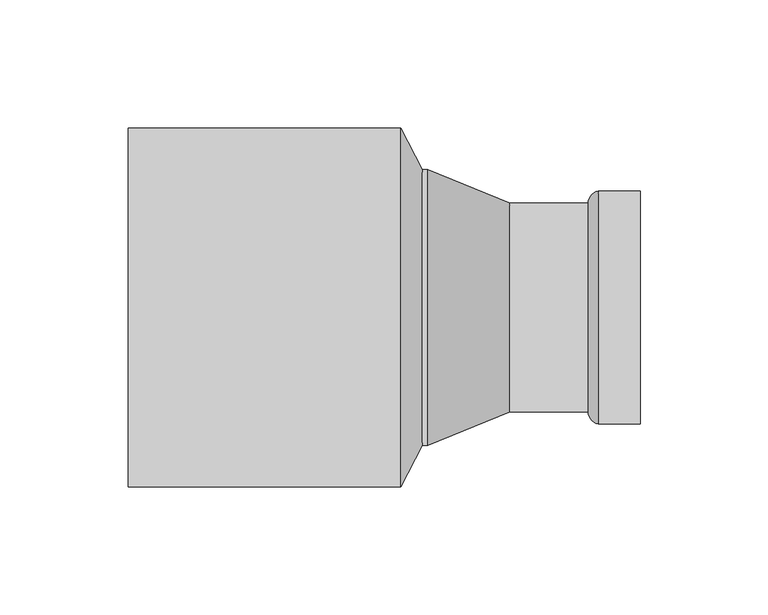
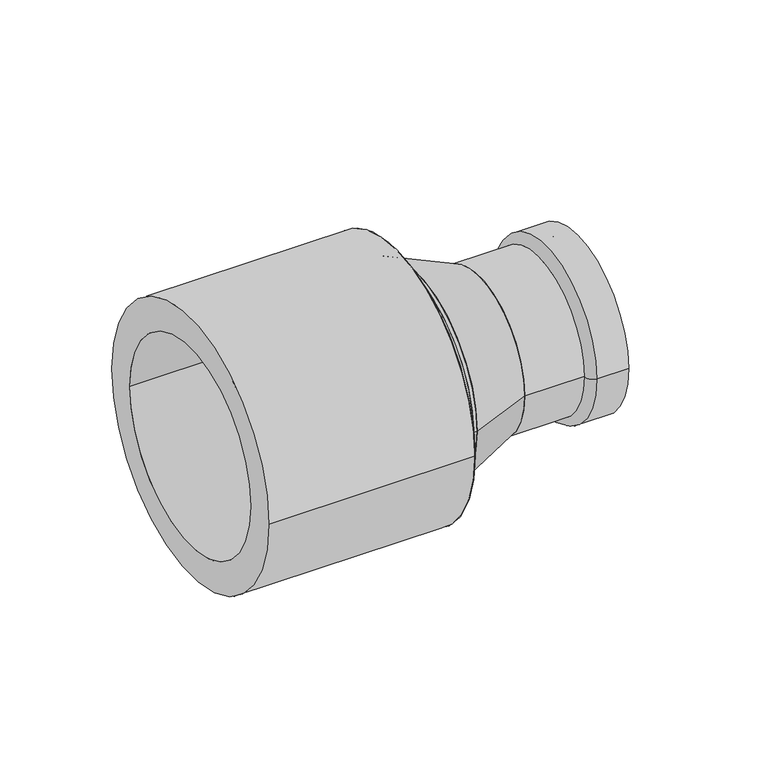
"""IFC4 building model written with IfcOpenShell, lengths in millimetres: pipe fitting geometry, VALTEC_VTi.905.I_Вставка переходная_Нержавеющая сталь : VTi.905.I."""

import ifcopenshell
import ifcopenshell.guid

model = None  # the IFC model being written
_history = None  # IfcOwnerHistory: only IFC2X3 demands one
_inside = {}  # id of a spatial element -> (the spatial element, [elements in it])
_under = {}  # id of a project, library or spatial element -> (it, [spatial elements below it])
_declared = {}  # id of a project -> (the project, [libraries it declares])
_typed = {}  # id of a type object -> (the type object, [elements of that type])
_made_of = {}  # id of a material, layer set ... -> (it, [elements and type objects made of it])


def new_model(schema):
    """Start an empty IFC model of exactly this schema.

    Asked for "IFC4X3", IfcOpenShell would pick the latest addendum, in which some entities
    have other attributes; the version numbers below select the first issue.
    IFC2X3 requires an IfcOwnerHistory on every rooted entity: one is made here for all.
    """
    global model, _history
    if schema == "IFC4X3":
        model = ifcopenshell.file(schema_version=(4, 3, 0, 0))
    else:
        model = ifcopenshell.file(schema=schema)
    _inside.clear()
    _under.clear()
    _declared.clear()
    _typed.clear()
    _made_of.clear()
    _history = None
    if model.schema == "IFC2X3":
        org = make("IfcOrganization", Name="unknown")
        user = make(
            "IfcPersonAndOrganization",
            ThePerson=make("IfcPerson", FamilyName="unknown"),
            TheOrganization=org,
        )
        app = make(
            "IfcApplication",
            ApplicationDeveloper=org,
            Version="unknown",
            ApplicationFullName="unknown",
            ApplicationIdentifier="unknown",
        )
        _history = make(
            "IfcOwnerHistory",
            OwningUser=user,
            OwningApplication=app,
            ChangeAction="ADDED",
            CreationDate=0,
        )
    return model


def make(cls, **values):
    """One entity of the class cls with the attributes given. An attribute that is None is left unset."""
    return model.create_entity(
        cls, **{name: value for name, value in values.items() if value is not None}
    )


def rooted(cls, **values):
    """An entity with a GlobalId (a new one), such as an element, a storey or a relation."""
    return make(cls, GlobalId=ifcopenshell.guid.new(), OwnerHistory=_history, **values)


def si_unit(unit_type, name, prefix=None):
    """IfcSIUnit, for example si_unit("LENGTHUNIT", "METRE", prefix="MILLI")."""
    return make("IfcSIUnit", UnitType=unit_type, Prefix=prefix, Name=name)


def assignment(units):
    """IfcUnitAssignment: the units of a project."""
    return None if units is None else make("IfcUnitAssignment", Units=units)


def point(xyz):
    """IfcCartesianPoint."""
    return None if xyz is None else make("IfcCartesianPoint", Coordinates=xyz)


def direction(xyz):
    """IfcDirection."""
    return None if xyz is None else make("IfcDirection", DirectionRatios=xyz)


def frame(location, z_axis=None, x_axis=None):
    """IfcAxis2Placement3D, a coordinate frame: its origin and axes. An axis left out is left unset."""
    return make(
        "IfcAxis2Placement3D",
        Location=point(location),
        Axis=direction(z_axis),
        RefDirection=direction(x_axis),
    )


def frame_2d(location, x_axis=None):
    """IfcAxis2Placement2D, a coordinate frame in the plane: its origin and x axis."""
    return make(
        "IfcAxis2Placement2D", Location=point(location), RefDirection=direction(x_axis)
    )


def origin():
    """The frame at (0, 0, 0) with its axes left unset."""
    return frame((0.0, 0.0, 0.0))


def origin_2d():
    """The frame at (0, 0) in the plane with its x axis left unset."""
    return frame_2d((0.0, 0.0))


def place(relative_to, where):
    """IfcLocalPlacement: puts the frame where relative to a parent placement (None: the world)."""
    return make(
        "IfcLocalPlacement", PlacementRelTo=relative_to, RelativePlacement=where
    )


def context(
    kind, dimensions, precision=None, world=None, true_north=None, identifier=None
):
    """IfcGeometricRepresentationContext, for example the 3D "Model" context."""
    return make(
        "IfcGeometricRepresentationContext",
        ContextIdentifier=identifier,
        ContextType=kind,
        CoordinateSpaceDimension=dimensions,
        Precision=precision,
        WorldCoordinateSystem=world,
        TrueNorth=true_north,
    )


def project(units=None, contexts=None):
    """IfcProject with its units and contexts."""
    return rooted(
        "IfcProject",
        Name="project",
        RepresentationContexts=contexts,
        UnitsInContext=assignment(units),
    )


def spatial(cls, under=None, at=None, **own):
    """A site, building, storey or space (cls), placed at a placement, below another one or the project."""
    s = rooted(cls, ObjectPlacement=at, **own)
    if under is not None:
        _under.setdefault(under.id(), (under, []))[1].append(s)
    return s


def polyline(points):
    """IfcPolyline through the points."""
    return make("IfcPolyline", Points=[point(p) for p in points])


def circle_curve(where, radius):
    """IfcCircle in the frame where."""
    return make("IfcCircle", Position=where, Radius=radius)


def ellipse_curve(where, semi_axis1, semi_axis2):
    """IfcEllipse in the frame where."""
    return make(
        "IfcEllipse", Position=where, SemiAxis1=semi_axis1, SemiAxis2=semi_axis2
    )


def trimmed(basis, trim1, trim2, sense, master):
    """IfcTrimmedCurve: the piece of a basis curve between two trims."""
    return make(
        "IfcTrimmedCurve",
        BasisCurve=basis,
        Trim1=trim1,
        Trim2=trim2,
        SenseAgreement=sense,
        MasterRepresentation=master,
    )


def segment(curve, same_sense, transition):
    """IfcCompositeCurveSegment."""
    return make(
        "IfcCompositeCurveSegment",
        Transition=transition,
        SameSense=same_sense,
        ParentCurve=curve,
    )


def composite_curve(segments, self_intersect=None):
    """IfcCompositeCurve: segments joined end to end."""
    return make("IfcCompositeCurve", Segments=segments, SelfIntersect=self_intersect)


def outline(outer, holes=None, kind="AREA"):
    """IfcArbitraryClosedProfileDef: a profile drawn as a closed curve; with holes, ...WithVoids."""
    if holes is None:
        return make("IfcArbitraryClosedProfileDef", ProfileType=kind, OuterCurve=outer)
    return make(
        "IfcArbitraryProfileDefWithVoids",
        ProfileType=kind,
        OuterCurve=outer,
        InnerCurves=holes,
    )


def extrude(swept, where, along, depth):
    """IfcExtrudedAreaSolid: the profile swept, set in the frame where, extruded along a direction by depth."""
    return make(
        "IfcExtrudedAreaSolid",
        SweptArea=swept,
        Position=where,
        ExtrudedDirection=direction(along),
        Depth=depth,
    )


def shape(context_of_items, identifier, shape_type, items):
    """IfcShapeRepresentation: the items that make up one representation, for example the "Body"."""
    return make(
        "IfcShapeRepresentation",
        ContextOfItems=context_of_items,
        RepresentationIdentifier=identifier,
        RepresentationType=shape_type,
        Items=items,
    )


def source(mapping_origin, context_of_items, identifier, shape_type, items):
    """IfcRepresentationMap: a shape defined once, which mapped items show again and again."""
    return make(
        "IfcRepresentationMap",
        MappingOrigin=mapping_origin,
        MappedRepresentation=shape(context_of_items, identifier, shape_type, items),
    )


def transform(
    local_origin,
    x_axis=None,
    y_axis=None,
    z_axis=None,
    scale=None,
    scale2=None,
    scale3=None,
    uniform=True,
):
    """IfcCartesianTransformationOperator3D, or its non-uniform kind. x_axis, y_axis, z_axis: its Axis1, 2, 3."""
    if uniform:
        return make(
            "IfcCartesianTransformationOperator3D",
            Axis1=direction(x_axis),
            Axis2=direction(y_axis),
            LocalOrigin=point(local_origin),
            Scale=scale,
            Axis3=direction(z_axis),
        )
    return make(
        "IfcCartesianTransformationOperator3DnonUniform",
        Axis1=direction(x_axis),
        Axis2=direction(y_axis),
        LocalOrigin=point(local_origin),
        Scale=scale,
        Axis3=direction(z_axis),
        Scale2=scale2,
        Scale3=scale3,
    )


def mapped(mapping_source, mapping_target):
    """IfcMappedItem: shows the shape of a source again, moved by a transform."""
    return make(
        "IfcMappedItem", MappingSource=mapping_source, MappingTarget=mapping_target
    )


def made_of(thing, what):
    """Note that an element or type object is made of a material, layer set ...; save() writes the relation."""
    if what is not None:
        _made_of.setdefault(what.id(), (what, []))[1].append(thing)
    return thing


def element(
    cls,
    number,
    at=None,
    inside=None,
    cuts=None,
    type_object=None,
    material=None,
    context=None,
    identifier="Body",
    shape_type=None,
    held_by="IfcProductDefinitionShape",
    body=None,
    shapes=None,
    **own,
):
    """One element of the class cls, such as IfcWall. Its Tag is "e" and its number.

    at: its placement. inside: the storey or other place that contains it. cuts: it is an
    opening in that element (IfcRelVoidsElement). A single representation is given by context,
    identifier, shape_type and body (its items); several are given by shapes. held_by: the class
    of the entity that holds the representations. save() writes the other relations.
    """
    e = rooted(cls, Tag="e%d" % number, ObjectPlacement=at, **own)
    if body is not None:
        shapes = [shape(context, identifier, shape_type, body)]
    if shapes is not None:
        e.Representation = make(held_by, Representations=shapes)
    if inside is not None:
        _inside.setdefault(inside.id(), (inside, []))[1].append(e)
    if cuts is not None:
        rooted(
            "IfcRelVoidsElement", RelatingBuildingElement=cuts, RelatedOpeningElement=e
        )
    if type_object is not None:
        _typed.setdefault(type_object.id(), (type_object, []))[1].append(e)
    return made_of(e, material)


def aggregate(whole, parts):
    """IfcRelAggregates: a whole, such as a stair, and the parts it consists of."""
    return rooted("IfcRelAggregates", RelatingObject=whole, RelatedObjects=parts)


def save(model, path):
    """Write the relations noted so far, then the file.

    IfcRelAggregates (storeys below a building ...), IfcRelContainedInSpatialStructure (elements
    in a storey), IfcRelDefinesByType, IfcRelAssociatesMaterial and IfcRelDeclares: one each for
    every whole, place, type object, material and project.
    """
    for whole, parts in _under.values():
        aggregate(whole, parts)
    for where, things in _inside.values():
        rooted(
            "IfcRelContainedInSpatialStructure",
            RelatedElements=things,
            RelatingStructure=where,
        )
    for kind, things in _typed.values():
        rooted("IfcRelDefinesByType", RelatedObjects=things, RelatingType=kind)
    for what, things in _made_of.values():
        rooted("IfcRelAssociatesMaterial", RelatedObjects=things, RelatingMaterial=what)
    for by, libraries in _declared.values():
        rooted("IfcRelDeclares", RelatingContext=by, RelatedDefinitions=libraries)
    model.write(path)


def plane_surface(at):
    """IfcPlane: the flat surface through the origin of the frame at, square to its z axis."""
    return make("IfcPlane", Position=at)


def cylinder_surface(at, radius):
    """IfcCylindricalSurface: all points at the distance radius from the z axis of the frame at."""
    return make("IfcCylindricalSurface", Position=at, Radius=radius)


def revolved_surface(curve, axis_point, axis_direction):
    """IfcSurfaceOfRevolution: the curve turned about the line through axis_point along axis_direction."""
    return make(
        "IfcSurfaceOfRevolution",
        SweptCurve=make("IfcArbitraryOpenProfileDef", ProfileType="CURVE", Curve=curve),
        AxisPosition=make("IfcAxis1Placement", Location=point(axis_point), Axis=direction(axis_direction)),
    )


def advanced_brep(points, edges, surfaces, faces):
    """IfcAdvancedBrep: a solid bounded by faces that lie on surfaces and meet in shared edges.

    An edge is (start, end): straight between two places in points (the first is 0);
    or (start, end, curve); or (start, end, curve, False) where it runs against its curve.
    A face is (place in surfaces, loops), or (place, loops, False) where it looks against
    its surface's normal. A loop lists edges by number (the first is 1), with a minus sign
    where the edge is run from its end to its start. The first loop is the outer one.
    """
    corners = [point(p) for p in points]
    vertices = [make("IfcVertexPoint", VertexGeometry=c) for c in corners]
    made = []
    for start, end, *more in edges:
        made.append(
            make(
                "IfcEdgeCurve",
                EdgeStart=vertices[start],
                EdgeEnd=vertices[end],
                EdgeGeometry=more[0] if more else make("IfcPolyline", Points=[corners[start], corners[end]]),
                SameSense=more[1] if len(more) > 1 else True,
            )
        )
    hull = []
    for where, loops, *sense in faces:
        bounds = []
        for j, loop in enumerate(loops):
            ring = [make("IfcOrientedEdge", EdgeElement=made[abs(k) - 1], Orientation=k > 0) for k in loop]
            bounds.append(
                make(
                    "IfcFaceOuterBound" if j == 0 else "IfcFaceBound",
                    Bound=make("IfcEdgeLoop", EdgeList=ring),
                    Orientation=True,
                )
            )
        hull.append(make("IfcAdvancedFace", Bounds=bounds, FaceSurface=surfaces[where], SameSense=sense[0] if sense else True))
    return make("IfcAdvancedBrep", Outer=make("IfcClosedShell", CfsFaces=hull))


def pipe_fitting_f9055b07(model_context):
    return source(origin(), model_context, "Body", "SolidModel", [
        advanced_brep(
        [(100.0, -38.05, 0.0), (100.0, -45.5, 0.0), (100.0, 45.5, 0.0), (100.0, 38.05, 0.0), (49.19, -38.05, 0.0), (49.19, 38.05, 0.0), (49.19, -40.75, 0.0), (49.19, 40.75, 0.0), (79.75, -40.75, 0.0), (79.75, 40.75, 0.0), (83.6, -45.5, 0.0), (83.6, 45.5, 0.0)],
        [
            (0, 1),
            (1, 2, circle_curve(frame((100.0, 0.0, 0.0), z_axis=(1.0, 0.0, 0.0), x_axis=(0.0, 1.0, 0.0)), 45.5)),
            (2, 3),
            (3, 0, circle_curve(frame((100.0, 0.0, 0.0), z_axis=(-1.0, 0.0, 0.0), x_axis=(0.0, 1.0, 0.0)), 38.05)),
            (2, 1, circle_curve(frame((100.0, 0.0, 0.0), z_axis=(1.0, 0.0, 0.0), x_axis=(0.0, 1.0, 0.0)), 45.5)),
            (0, 3, circle_curve(frame((100.0, 0.0, 0.0), z_axis=(-1.0, 0.0, 0.0), x_axis=(0.0, 1.0, 0.0)), 38.05)),
            (4, 0),
            (3, 5),
            (5, 4, circle_curve(frame((49.19, 0.0, 0.0), z_axis=(-1.0, 0.0, 0.0), x_axis=(0.0, 1.0, 0.0)), 38.05)),
            (4, 5, circle_curve(frame((49.19, 0.0, 0.0), z_axis=(-1.0, 0.0, 0.0), x_axis=(0.0, 1.0, 0.0)), 38.05)),
            (6, 4),
            (5, 7),
            (7, 6, circle_curve(frame((49.19, 0.0, 0.0), z_axis=(-1.0, 0.0, 0.0), x_axis=(0.0, 1.0, 0.0)), 40.75)),
            (6, 7, circle_curve(frame((49.19, 0.0, 0.0), z_axis=(-1.0, 0.0, 0.0), x_axis=(0.0, 1.0, 0.0)), 40.75)),
            (8, 6),
            (7, 9),
            (9, 8, circle_curve(frame((79.75, 0.0, 0.0), z_axis=(-1.0, 0.0, 0.0), x_axis=(0.0, 1.0, 0.0)), 40.75)),
            (8, 9, circle_curve(frame((79.75, 0.0, 0.0), z_axis=(-1.0, 0.0, 0.0), x_axis=(0.0, 1.0, 0.0)), 40.75)),
            (10, 8, circle_curve(frame((84.4665873, -40.862345, 0.0), z_axis=(0.0, 0.0, -1.0), x_axis=(-1.0, 0.0, 0.0)), 4.7179251)),
            (9, 11, circle_curve(frame((84.4665873, 40.862345, 0.0), z_axis=(0.0, 0.0, -1.0), x_axis=(-1.0, 0.0, 0.0)), 4.7179251)),
            (11, 10, circle_curve(frame((83.6, 0.0, 0.0), z_axis=(-1.0, 0.0, 0.0), x_axis=(0.0, 1.0, 0.0)), 45.5)),
            (10, 11, circle_curve(frame((83.6, 0.0, 0.0), z_axis=(-1.0, 0.0, 0.0), x_axis=(0.0, 1.0, 0.0)), 45.5)),
            (1, 10),
            (11, 2),
        ],
        [
            plane_surface(frame((100.0, 0.0, 0.0), z_axis=(1.0, 0.0, 0.0), x_axis=(0.0, 1.0, 0.0))),
            revolved_surface(polyline([(100.0, 38.05, 0.0), (49.19, 38.05, 0.0)]), (70.1506392, 0.0, 0.0), (1.0, 0.0, 0.0)),
            plane_surface(frame((49.19, 0.0, 0.0), z_axis=(-1.0, 0.0, 0.0), x_axis=(0.0, 1.0, 0.0))),
            cylinder_surface(frame((70.1506392, 0.0, 0.0), z_axis=(1.0, 0.0, 0.0), x_axis=(0.0, 1.0, 0.0)), 40.75),
            revolved_surface(trimmed(ellipse_curve(frame((84.4665873, 40.862345, 0.0), z_axis=(0.0, 0.0, -1.0), x_axis=(-1.0, 0.0, 0.0)), 4.7179251, 4.7179251), [point((79.75, 40.75, 0.0))], [point((83.6, 45.5, 0.0))], True, "CARTESIAN"), (70.1506392, 0.0, 0.0), (1.0, 0.0, 0.0)),
            cylinder_surface(frame((70.1506392, 0.0, 0.0), z_axis=(1.0, 0.0, 0.0), x_axis=(0.0, 1.0, 0.0)), 45.5),
        ],
        [
            (0, [[1, 2, 3, 4]]),
            (0, [[-3, 5, -1, 6]]),
            (1, [[7, -4, 8, 9]]),
            (1, [[-8, -6, -7, 10]]),
            (2, [[11, -9, 12, 13]]),
            (2, [[-12, -10, -11, 14]]),
            (3, [[15, -13, 16, 17]]),
            (3, [[-16, -14, -15, 18]]),
            (4, [[19, -17, 20, 21]]),
            (4, [[-20, -18, -19, 22]]),
            (5, [[23, -21, 24, -2]]),
            (5, [[-24, -22, -23, -5]]),
        ],
    ),
        advanced_brep(
        [(17.0, -54.0, 0.0), (17.0, 54.0, 0.0), (49.19, -40.75, 0.0), (49.19, 40.75, 0.0)],
        [
            (0, 1, circle_curve(frame((17.0, 0.0, 0.0), z_axis=(-1.0, 0.0, 0.0), x_axis=(0.0, -1.0, 0.0)), 54.0)),
            (1, 0, circle_curve(frame((17.0, 0.0, 0.0), z_axis=(-1.0, 0.0, 0.0), x_axis=(0.0, 1.0, 0.0)), 54.0)),
            (2, 3, circle_curve(frame((49.19, 0.0, 0.0), z_axis=(1.0, 0.0, 0.0), x_axis=(0.0, 1.0, 0.0)), 40.75)),
            (3, 2, circle_curve(frame((49.19, 0.0, 0.0), z_axis=(1.0, 0.0, 0.0), x_axis=(0.0, -1.0, 0.0)), 40.75)),
            (2, 0),
            (1, 3),
        ],
        [
            plane_surface(frame((17.0, 0.0, 0.0), z_axis=(-1.0, 0.0, 0.0), x_axis=(0.0, 0.0, 1.0))),
            plane_surface(frame((49.19, 0.0, 0.0), z_axis=(1.0, 0.0, 0.0), x_axis=(0.0, 0.0, 1.0))),
            revolved_surface(polyline([(49.19, -40.75000000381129, 0.0), (17.0, -54.0, 0.0)]), (148.189434, 0.0, 0.0), (-1.0, 0.0, 0.0)),
            revolved_surface(polyline([(49.19, 40.75000000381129, 0.0), (17.0, 54.0, 0.0)]), (148.189434, 0.0, 0.0), (-1.0, 0.0, 0.0)),
        ],
        [
            (0, [[1, 2]]),
            (1, [[3, 4]]),
            (2, [[-3, 5, -2, 6]]),
            (3, [[-4, -6, -1, -5]]),
        ],
    ),
        extrude(outline(composite_curve([segment(trimmed(circle_curve(origin_2d(), 54.0), [point((-54.0, 0.0))], [point((54.0, 0.0))], False, "CARTESIAN"), True, "CONTINUOUS"), segment(trimmed(circle_curve(origin_2d(), 54.0), [point((54.0, 0.0))], [point((-54.0, 0.0))], False, "CARTESIAN"), True, "CONTINUOUS")], self_intersect=False)), frame((15.0, 0.0, 0.0), z_axis=(1.0, 0.0, 0.0), x_axis=(0.0, 1.0, 0.0)), (0.0, 0.0, 1.0), 2.0),
        advanced_brep(
        [(15.0, -54.0, 0.0), (15.0, 54.0, 0.0), (6.5, -70.2, 0.0), (6.5, 70.2, 0.0)],
        [
            (0, 1, circle_curve(frame((15.0, 0.0, 0.0), z_axis=(1.0, 0.0, 0.0), x_axis=(0.0, -1.0, 0.0)), 54.0)),
            (1, 0, circle_curve(frame((15.0, 0.0, 0.0), z_axis=(1.0, 0.0, 0.0), x_axis=(0.0, 1.0, 0.0)), 54.0)),
            (2, 3, circle_curve(frame((6.5, 0.0, 0.0), z_axis=(-1.0, 0.0, 0.0), x_axis=(0.0, 1.0, 0.0)), 70.2)),
            (3, 2, circle_curve(frame((6.5, 0.0, 0.0), z_axis=(-1.0, 0.0, 0.0), x_axis=(0.0, -1.0, 0.0)), 70.2)),
            (3, 1),
            (0, 2),
        ],
        [
            plane_surface(frame((15.0, 0.0, 0.0), z_axis=(1.0, 0.0, 0.0), x_axis=(0.0, 0.0, -1.0))),
            plane_surface(frame((6.5, 0.0, 0.0), z_axis=(-1.0, 0.0, 0.0), x_axis=(0.0, 0.0, -1.0))),
            revolved_surface(polyline([(15.0, -53.99999998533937, 0.0), (6.5, -70.2, 0.0)]), (43.3333333, 0.0, 0.0), (-1.0, 0.0, 0.0)),
            revolved_surface(polyline([(15.0, 53.99999998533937, 0.0), (6.5, 70.2, 0.0)]), (43.3333333, 0.0, 0.0), (-1.0, 0.0, 0.0)),
        ],
        [
            (0, [[1, 2]]),
            (1, [[3, 4]]),
            (2, [[-4, 5, -1, 6]]),
            (3, [[-3, -6, -2, -5]]),
        ],
    ),
        extrude(outline(composite_curve([segment(trimmed(circle_curve(origin_2d(), 70.2), [point((-70.2, 0.0))], [point((70.2, 0.0))], False, "CARTESIAN"), True, "CONTINUOUS"), segment(trimmed(circle_curve(origin_2d(), 70.2), [point((70.2, 0.0))], [point((-70.2, 0.0))], False, "CARTESIAN"), True, "CONTINUOUS")], self_intersect=False), holes=[composite_curve([segment(trimmed(circle_curve(origin_2d(), 54.0), [point((-54.0, 0.0))], [point((54.0, 0.0))], True, "CARTESIAN"), True, "CONTINUOUS"), segment(trimmed(circle_curve(origin_2d(), 54.0), [point((54.0, 0.0))], [point((-54.0, 0.0))], True, "CARTESIAN"), True, "CONTINUOUS")], self_intersect=False)]), frame((-100.0, 0.0, 0.0), z_axis=(1.0, 0.0, 0.0), x_axis=(0.0, 1.0, 0.0)), (0.0, 0.0, 1.0), 106.5),
    ])


if __name__ == "__main__":
    model = new_model("IFC4")
    model_context = context("Model", 3, world=origin())
    ifc_project = project(units=[si_unit("LENGTHUNIT", "METRE", prefix="MILLI")], contexts=[model_context])
    site = spatial("IfcSite", under=ifc_project)
    building = spatial("IfcBuilding", under=site)
    placement = place(None, origin())
    pipe_fitting_shape = pipe_fitting_f9055b07(model_context)
    element("IfcPipeFitting", 1, ObjectType="VALTEC_VTi.905.I_Вставка переходная_Нержавеющая сталь : VTi.905.I", at=placement, inside=building, context=model_context, shape_type="MappedRepresentation", body=[
        mapped(pipe_fitting_shape, transform((0.0, 0.0, 0.0), x_axis=(1.0, 0.0, 0.0), y_axis=(0.0, 1.0, 0.0), z_axis=(0.0, 0.0, 1.0))),
    ])
    save(model, "model.ifc")
